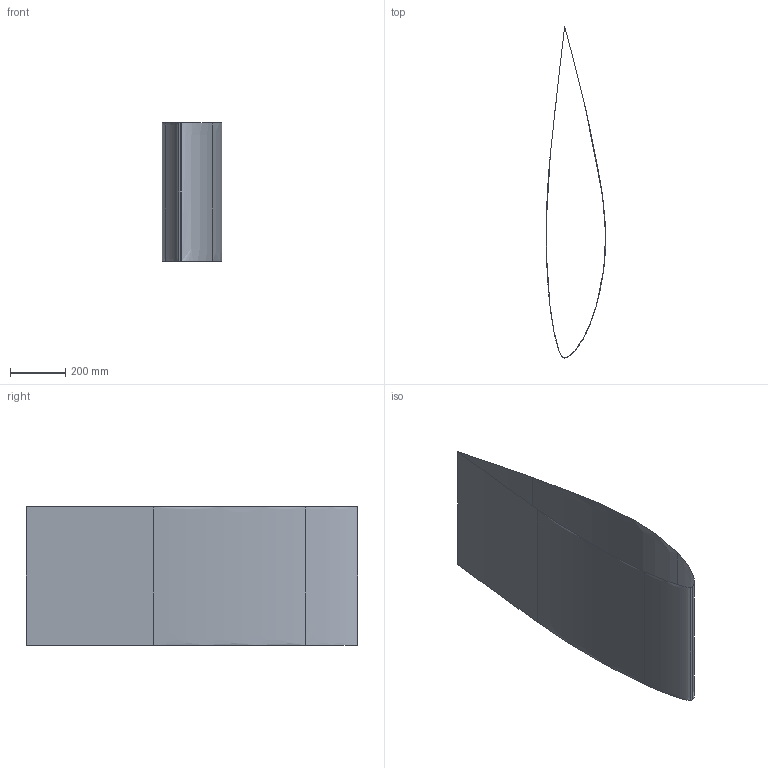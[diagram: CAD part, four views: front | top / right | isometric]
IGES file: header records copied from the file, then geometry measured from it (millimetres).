
Start section: START RECORD GO HERE.
Global section: file name: Composite_Manual_Example.igs; native system: DASSAULT SYSTEMES CATIA V5 R19 - www.3ds.com; preprocessor: CATIA Version 5 Release 19 SP 6 ; author: DJ; organization: DJ-PC; date: 20120516.133917; units: millimetre
Bounding box: 215.4 x 1200.05 x 500 mm (x, y, z)
Surface area: 1237537.6 mm2 (no closed solid volume)
Topology: 0 solids, 0 shells, 8 faces, 38 edges, 38 vertices
Faces by surface type: extrusion 5, revolution 3
